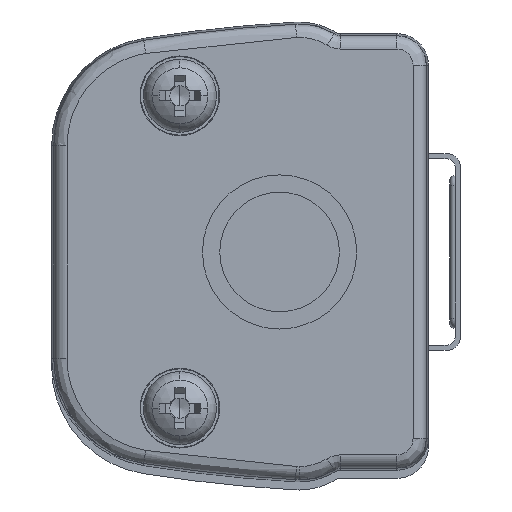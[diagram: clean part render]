
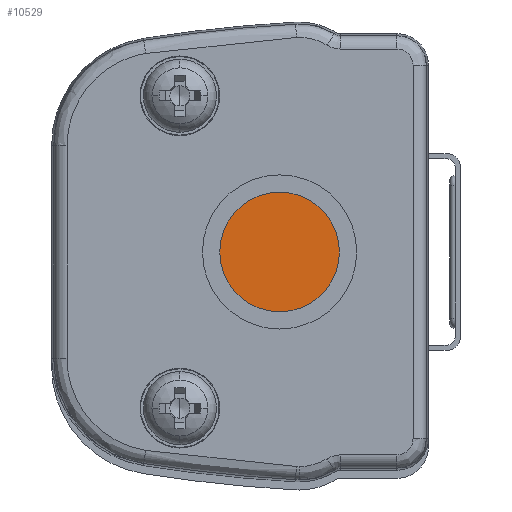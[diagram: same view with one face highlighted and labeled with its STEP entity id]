
A CAD part, left-side view. The second image highlights one B-rep face of the part: STEP entity #10529.
In plain terms, the highlighted planar face has unit normal (-1, 0, 0).
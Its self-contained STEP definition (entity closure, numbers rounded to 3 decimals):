
#621 = CARTESIAN_POINT ( 'NONE',  ( -157.2, -2.628, 305. ) ) ;
#913 = CARTESIAN_POINT ( 'NONE',  ( -157.2, -2.628, 305. ) ) ;
#1082 = AXIS2_PLACEMENT_3D ( 'NONE', #5921, #10725, #10799 ) ;
#1485 = DIRECTION ( 'NONE',  ( -1., 0., 0. ) ) ;
#2183 = AXIS2_PLACEMENT_3D ( 'NONE', #621, #1485, #13425 ) ;
#2230 = FACE_OUTER_BOUND ( 'NONE', #12705, .T. ) ;
#2955 = ORIENTED_EDGE ( 'NONE', *, *, #13694, .T. ) ;
#3409 = EDGE_CURVE ( 'NONE', #5489, #9560, #12221, .T. ) ;
#3788 = AXIS2_PLACEMENT_3D ( 'NONE', #913, #5701, #15345 ) ;
#5489 = VERTEX_POINT ( 'NONE', #10070 ) ;
#5701 = DIRECTION ( 'NONE',  ( -1., 0., 0. ) ) ;
#5921 = CARTESIAN_POINT ( 'NONE',  ( -157.2, -2.628, 305. ) ) ;
#5995 = CARTESIAN_POINT ( 'NONE',  ( -157.2, -2.628, 300.5 ) ) ;
#9560 = VERTEX_POINT ( 'NONE', #5995 ) ;
#10070 = CARTESIAN_POINT ( 'NONE',  ( -157.2, -2.628, 309.5 ) ) ;
#10529 = ADVANCED_FACE ( 'NONE', ( #2230 ), #11587, .T. ) ;
#10725 = DIRECTION ( 'NONE',  ( -1., 0., 0. ) ) ;
#10799 = DIRECTION ( 'NONE',  ( 0., 0., 1. ) ) ;
#11373 = CIRCLE ( 'NONE', #1082, 4.5 ) ;
#11587 = PLANE ( 'NONE',  #3788 ) ;
#12221 = CIRCLE ( 'NONE', #2183, 4.5 ) ;
#12273 = ORIENTED_EDGE ( 'NONE', *, *, #3409, .T. ) ;
#12705 = EDGE_LOOP ( 'NONE', ( #12273, #2955 ) ) ;
#13425 = DIRECTION ( 'NONE',  ( 0., 0., 1. ) ) ;
#13694 = EDGE_CURVE ( 'NONE', #9560, #5489, #11373, .T. ) ;
#15345 = DIRECTION ( 'NONE',  ( 0., 0., 1. ) ) ;
